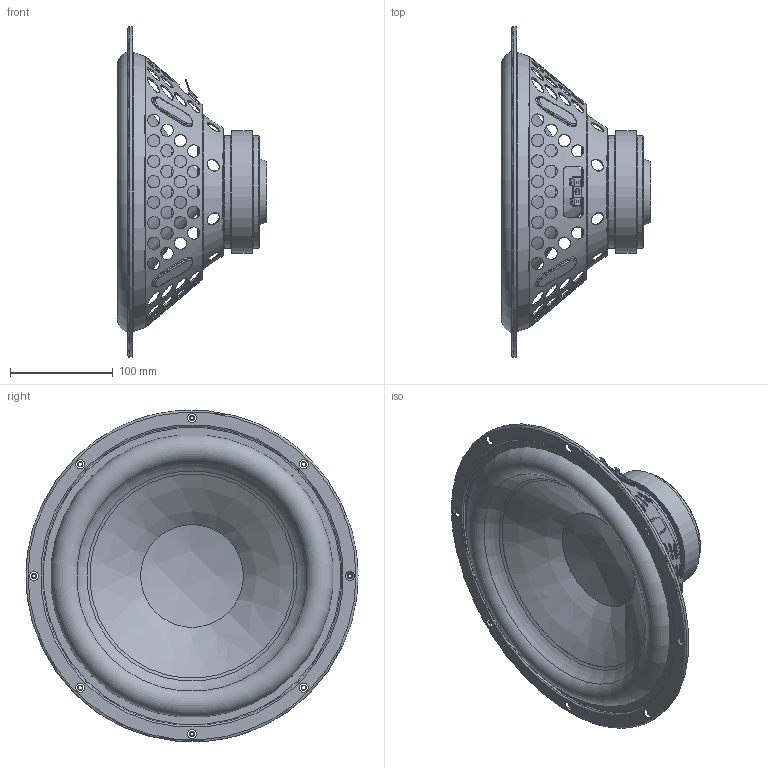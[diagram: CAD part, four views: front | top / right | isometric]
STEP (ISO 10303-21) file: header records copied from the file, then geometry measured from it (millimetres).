
FILE_DESCRIPTION(/* description */ ('STEP AP203'),/* implementation_level */ '2;1');
FILE_NAME(/* name */ 'PCS12-4.step',/* time_stamp */ '2026-03-10T14:03:31-04:00',/* author */ (''),/* organization */ (''),/* preprocessor_version */ 'ST-DEVELOPER v20.1',/* originating_system */ 'Autodesk Translation Framework v14.24.0.0',/* authorisation */ '');
FILE_SCHEMA (('AUTOMOTIVE_DESIGN { 1 0 10303 214 3 1 1 }'));
Products named in the file (2): 12inch WF; 12INCH YINQUAN
Assembly tree (1 placements, depth 2):
  12inch WF
    12INCH YINQUAN
Bounding box: 145.45 x 323.74 x 322.57 mm (x, y, z)
Volume: 547555.9 mm3; surface area: 474127.5 mm2
Topology: 1 solids, 1 shells, 477 faces, 1326 edges, 903 vertices
Faces by surface type: cylinder 168, plane 133, bspline 76, cone 55, torus 42, sphere 3
Full cylindrical faces by diameter (mm): 2 x1, 4.2 x8, 6 x7, 6.2 x8, 12 x105, 15 x1, 38 x1, 38.6 x1, 39.2 x1, 42.4 x2, 60 x1, 100 x1, 110 x2, 120 x1, 162 x1, 290 x1, 292.4 x1, 294.4 x1, 321.8 x1, 323.8 x1
Entity records: 37673 total; most frequent: CARTESIAN_POINT 25810, ORIENTED_EDGE 2652, DIRECTION 1987, EDGE_CURVE 1326, VERTEX_POINT 903, AXIS2_PLACEMENT_3D 777, EDGE_LOOP 765, B_SPLINE_CURVE_WITH_KNOTS 508
